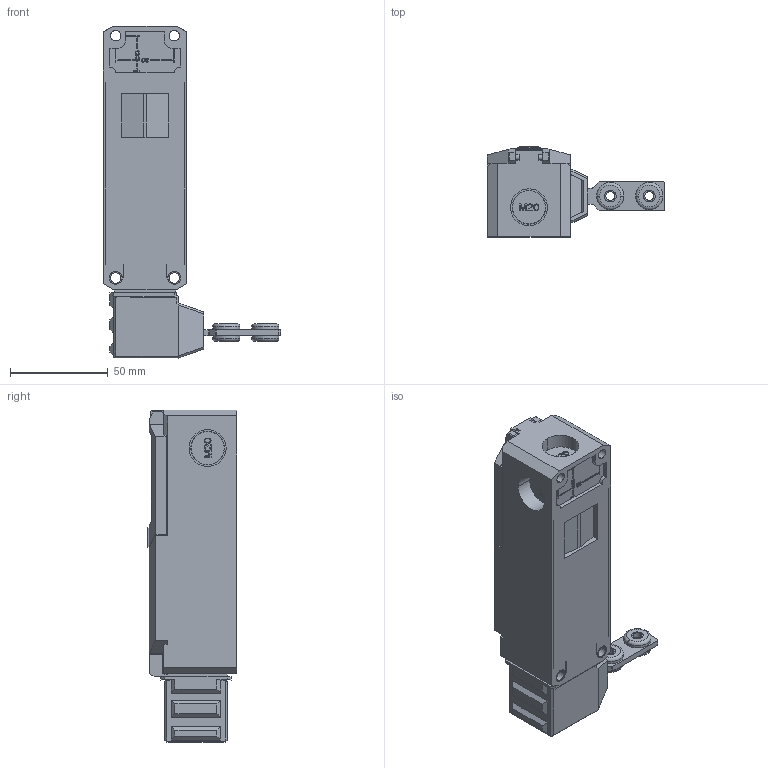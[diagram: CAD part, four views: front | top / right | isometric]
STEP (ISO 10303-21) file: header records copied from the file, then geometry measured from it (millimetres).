
FILE_DESCRIPTION((''),'2;1');
FILE_NAME('2015412_ASM','2014-03-24T',('lwegerer'),(''),'PRO/ENGINEER BY PARAMETRIC TECHNOLOGY CORPORATION, 2011040','PRO/ENGINEER BY PARAMETRIC TECHNOLOGY CORPORATION, 2011040','');
FILE_SCHEMA(('AUTOMOTIVE_DESIGN_CC2 { 1 2 10303 214 -1 1 5 2 }'));
Products named in the file (4): 2015385; 2015387; 2015388; 2015412_ASM
Assembly tree (3 placements, depth 2):
  2015412_ASM
    2015385
    2015387
    2015388
Bounding box: 90.65 x 46 x 170 mm (x, y, z)
Volume: 129682.2 mm3; surface area: 98037.2 mm2
Topology: 5 solids, 7 shells, 2291 faces, 6367 edges, 4121 vertices
Faces by surface type: plane 1708, cylinder 421, torus 67, cone 57, sphere 25, bspline 9, extrusion 4
Entity records: 107321 total; most frequent: CARTESIAN_POINT 13789, ORIENTED_EDGE 12656, DIRECTION 11886, PRESENTATION_STYLE_ASSIGNMENT 8456, STYLED_ITEM 6350, CURVE_STYLE 6345, EDGE_CURVE 6328, VECTOR 5086
